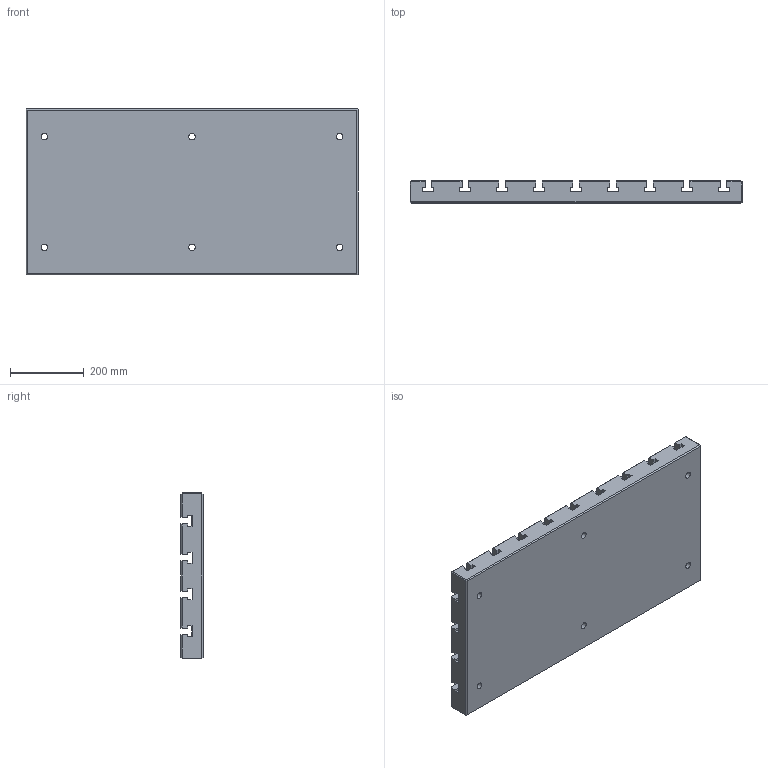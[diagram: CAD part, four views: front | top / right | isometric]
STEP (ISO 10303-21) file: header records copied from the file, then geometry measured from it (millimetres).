
FILE_DESCRIPTION((''),'2;1');
FILE_NAME('FG_WH_BASPL_RCT18NP004','2026-05-17T11:45:15',('Admin'),(''),'CREO PARAMETRIC BY PTC INC, 2025010','CREO PARAMETRIC BY PTC INC, 2025010','');
FILE_SCHEMA(('CONFIG_CONTROL_DESIGN'));
Length unit declared in the file: millimetre
Products named in the file (1): FG_WH_BASPL_RCT18NP004
Bounding box: 900 x 60 x 450 mm (x, y, z)
Volume: 19577009.1 mm3; surface area: 1456551.5 mm2
Topology: 1 solids, 1 shells, 546 faces, 1454 edges, 964 vertices
Faces by surface type: plane 498, cylinder 48
Entity records: 16748 total; most frequent: CARTESIAN_POINT 2964, ORIENTED_EDGE 2908, DIRECTION 2642, EDGE_CURVE 1454, VECTOR 1358, LINE 1358, VERTEX_POINT 964, AXIS2_PLACEMENT_3D 642
